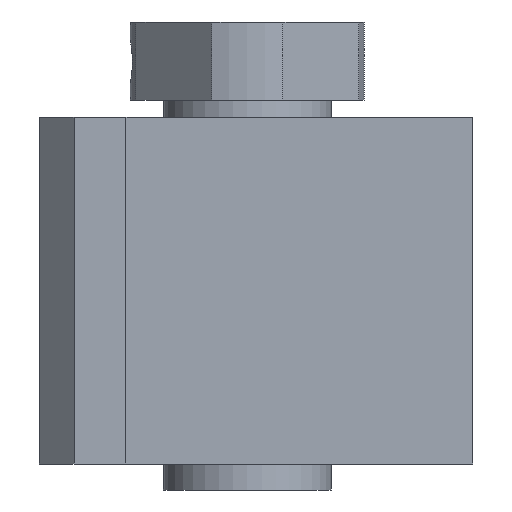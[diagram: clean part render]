
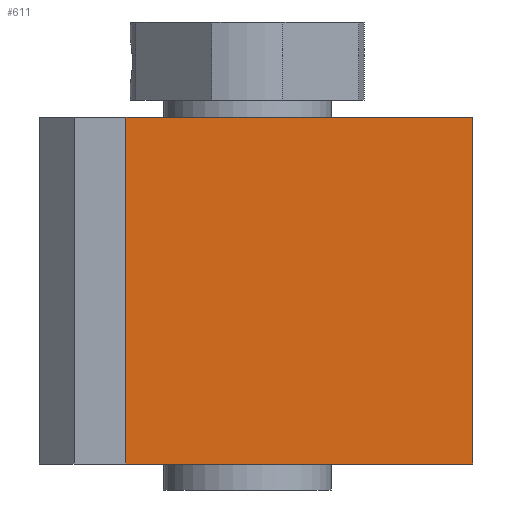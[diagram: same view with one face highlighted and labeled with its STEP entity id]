
A CAD part, left-side view. The second image highlights one B-rep face of the part: STEP entity #611.
In plain terms, the highlighted planar face has unit normal (-1, 0, 0).
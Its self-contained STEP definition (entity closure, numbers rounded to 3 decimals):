
#20=LINE($,#1032,#66);
#38=LINE($,#1072,#84);
#55=LINE($,#1146,#101);
#56=LINE($,#1147,#102);
#66=VECTOR($,#713,20.);
#84=VECTOR($,#741,20.);
#101=VECTOR($,#834,20.);
#102=VECTOR($,#835,20.);
#128=FACE_OUTER_BOUND($,#239,.T.);
#239=EDGE_LOOP($,(#531,#532,#533,#534));
#293=VERTEX_POINT($,#1029);
#294=VERTEX_POINT($,#1031);
#310=VERTEX_POINT($,#1069);
#311=VERTEX_POINT($,#1071);
#351=EDGE_CURVE($,#293,#294,#20,.T.);
#371=EDGE_CURVE($,#311,#310,#38,.T.);
#403=EDGE_CURVE($,#310,#294,#55,.T.);
#404=EDGE_CURVE($,#311,#293,#56,.T.);
#531=ORIENTED_EDGE($,*,*,#371,.T.);
#532=ORIENTED_EDGE($,*,*,#403,.T.);
#533=ORIENTED_EDGE($,*,*,#351,.F.);
#534=ORIENTED_EDGE($,*,*,#404,.F.);
#575=PLANE($,#674);
#611=ADVANCED_FACE($,(#128),#575,.T.);
#674=AXIS2_PLACEMENT_3D($,#1145,#832,#833);
#713=DIRECTION($,(0.,-1.,0.));
#741=DIRECTION($,(0.,-1.,0.));
#832=DIRECTION('center_axis',(-1.,0.,0.));
#833=DIRECTION('ref_axis',(0.,-1.,0.));
#834=DIRECTION($,(0.,0.,1.));
#835=DIRECTION($,(0.,0.,1.));
#1029=CARTESIAN_POINT('',(0.,20.,20.));
#1031=CARTESIAN_POINT('',(0.,0.,20.));
#1032=CARTESIAN_POINT($,(0.,20.,20.));
#1069=CARTESIAN_POINT('',(0.,0.,0.));
#1071=CARTESIAN_POINT('',(0.,20.,0.));
#1072=CARTESIAN_POINT($,(0.,20.,0.));
#1145=CARTESIAN_POINT('Origin',(0.,20.,0.));
#1146=CARTESIAN_POINT($,(0.,0.,0.));
#1147=CARTESIAN_POINT($,(0.,20.,0.));
